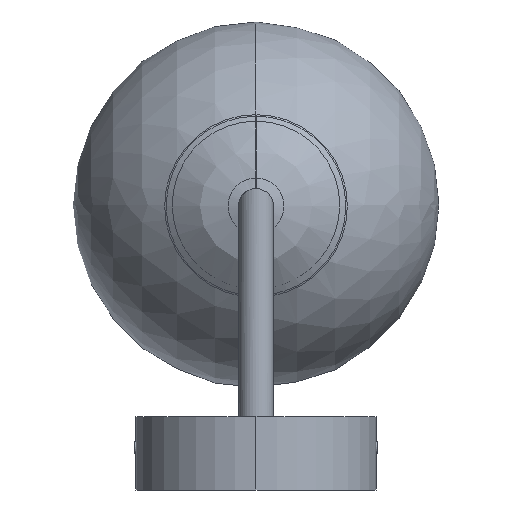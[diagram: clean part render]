
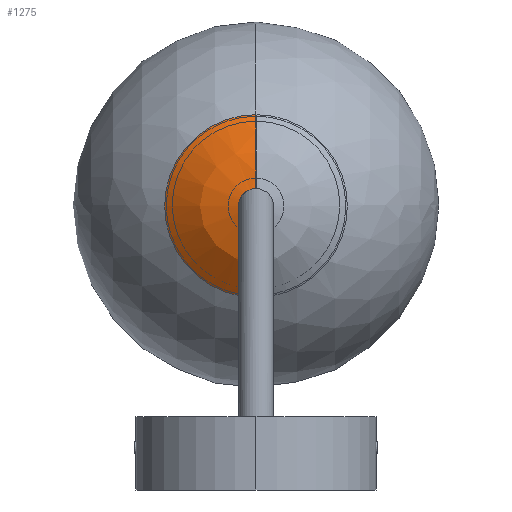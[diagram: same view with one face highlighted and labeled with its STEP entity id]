
A CAD part, front view. The second image highlights one B-rep face of the part: STEP entity #1275.
In plain terms, the highlighted free-form (B-spline) face has degree [2, 2] with [3, 5] control points.
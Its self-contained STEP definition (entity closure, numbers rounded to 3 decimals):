
#64=(
BOUNDED_CURVE()
B_SPLINE_CURVE(2,(#2968,#2969,#2970),.UNSPECIFIED.,.F.,.F.)
B_SPLINE_CURVE_WITH_KNOTS((3,3),(0.821,1.453),
 .UNSPECIFIED.)
CURVE()
GEOMETRIC_REPRESENTATION_ITEM()
RATIONAL_B_SPLINE_CURVE((1.,0.951,1.))
REPRESENTATION_ITEM('')
);
#67=(
BOUNDED_SURFACE()
B_SPLINE_SURFACE(2,2,((#2901,#2902,#2903,#2904,#2905),(#2906,#2907,#2908,
#2909,#2910),(#2911,#2912,#2913,#2914,#2915)),.UNSPECIFIED.,.F.,.F.,.F.)
B_SPLINE_SURFACE_WITH_KNOTS((3,3),(3,2,3),(-1.453,-0.821),
(-6.283,-4.712,-3.142),.UNSPECIFIED.)
GEOMETRIC_REPRESENTATION_ITEM()
RATIONAL_B_SPLINE_SURFACE(((1.,0.707,1.,0.707,1.),
(0.951,0.672,0.951,0.672,
0.951),(1.,0.707,1.,0.707,1.)))
REPRESENTATION_ITEM('')
SURFACE()
);
#109=B_SPLINE_CURVE_WITH_KNOTS('',3,(#2916,#2917,#2918,#2919,#2920,#2921,
#2922,#2923,#2924,#2925,#2926,#2927,#2928,#2929,#2930,#2931,#2932,#2933,
#2934,#2935,#2936,#2937,#2938,#2939,#2940,#2941,#2942,#2943,#2944,#2945,
#2946,#2947,#2948,#2949,#2950,#2951,#2952,#2953,#2954,#2955,#2956,#2957,
#2958,#2959,#2960,#2961,#2962,#2963,#2964,#2965,#2966,#2967),
 .UNSPECIFIED.,.F.,.F.,(4,3,3,3,3,3,3,3,3,3,3,3,3,3,3,3,3,4),(0.,0.063,
0.125,0.186,0.248,0.31,
0.371,0.433,0.495,0.558,
0.619,0.681,0.743,0.807,0.869,
0.931,0.993,1.),.UNSPECIFIED.);
#176=FACE_OUTER_BOUND('',#272,.T.);
#272=EDGE_LOOP('',(#929,#930,#931,#932));
#368=CIRCLE('',#1395,5.);
#372=CIRCLE('',#1403,29.982);
#569=VERTEX_POINT('',#2755);
#570=VERTEX_POINT('',#2756);
#575=VERTEX_POINT('',#2894);
#576=VERTEX_POINT('',#2896);
#686=EDGE_CURVE('',#569,#570,#368,.T.);
#698=EDGE_CURVE('',#576,#575,#372,.T.);
#701=EDGE_CURVE('',#569,#575,#109,.T.);
#702=EDGE_CURVE('',#576,#570,#64,.T.);
#929=ORIENTED_EDGE('',*,*,#698,.T.);
#930=ORIENTED_EDGE('',*,*,#701,.F.);
#931=ORIENTED_EDGE('',*,*,#686,.T.);
#932=ORIENTED_EDGE('',*,*,#702,.F.);
#1275=ADVANCED_FACE('',(#176),#67,.F.);
#1395=AXIS2_PLACEMENT_3D('',#2757,#1621,#1622);
#1403=AXIS2_PLACEMENT_3D('',#2897,#1641,#1642);
#1621=DIRECTION('center_axis',(0.,-1.,0.));
#1622=DIRECTION('ref_axis',(0.,0.,-1.));
#1641=DIRECTION('center_axis',(0.,1.,0.));
#1642=DIRECTION('ref_axis',(-0.588,0.,0.809));
#2755=CARTESIAN_POINT('',(0.,-136.541,88.213));
#2756=CARTESIAN_POINT('',(0.,-136.541,98.213));
#2757=CARTESIAN_POINT('Origin',(0.,-136.541,93.213));
#2894=CARTESIAN_POINT('',(0.,-148.112,63.231));
#2896=CARTESIAN_POINT('',(0.,-148.112,123.194));
#2897=CARTESIAN_POINT('Origin',(0.,-148.112,
93.213));
#2901=CARTESIAN_POINT('Ctrl Pts',(0.,-136.541,
88.213));
#2902=CARTESIAN_POINT('Ctrl Pts',(5.,-136.541,88.213));
#2903=CARTESIAN_POINT('Ctrl Pts',(5.,-136.541,93.213));
#2904=CARTESIAN_POINT('Ctrl Pts',(5.,-136.541,98.213));
#2905=CARTESIAN_POINT('Ctrl Pts',(0.,-136.541,
98.213));
#2906=CARTESIAN_POINT('Ctrl Pts',(0.,-138.245,
73.831));
#2907=CARTESIAN_POINT('Ctrl Pts',(19.381,-138.245,73.831));
#2908=CARTESIAN_POINT('Ctrl Pts',(19.381,-138.245,93.213));
#2909=CARTESIAN_POINT('Ctrl Pts',(19.381,-138.245,112.594));
#2910=CARTESIAN_POINT('Ctrl Pts',(0.,-138.245,
112.594));
#2911=CARTESIAN_POINT('Ctrl Pts',(0.,-148.112,
63.231));
#2912=CARTESIAN_POINT('Ctrl Pts',(29.982,-148.112,63.231));
#2913=CARTESIAN_POINT('Ctrl Pts',(29.982,-148.112,93.213));
#2914=CARTESIAN_POINT('Ctrl Pts',(29.982,-148.112,123.194));
#2915=CARTESIAN_POINT('Ctrl Pts',(0.,-148.112,
123.194));
#2916=CARTESIAN_POINT('Ctrl Pts',(0.,-136.541,
88.213));
#2917=CARTESIAN_POINT('Ctrl Pts',(0.,-136.608,
87.643));
#2918=CARTESIAN_POINT('Ctrl Pts',(0.,-136.687,
87.073));
#2919=CARTESIAN_POINT('Ctrl Pts',(0.,-136.777,
86.503));
#2920=CARTESIAN_POINT('Ctrl Pts',(0.,-136.867,
85.937));
#2921=CARTESIAN_POINT('Ctrl Pts',(0.,-136.967,
85.372));
#2922=CARTESIAN_POINT('Ctrl Pts',(0.,-137.079,
84.807));
#2923=CARTESIAN_POINT('Ctrl Pts',(0.,-137.191,
84.244));
#2924=CARTESIAN_POINT('Ctrl Pts',(0.,-137.314,
83.681));
#2925=CARTESIAN_POINT('Ctrl Pts',(0.,-137.448,
83.12));
#2926=CARTESIAN_POINT('Ctrl Pts',(0.,-137.582,
82.561));
#2927=CARTESIAN_POINT('Ctrl Pts',(0.,-137.727,
82.002));
#2928=CARTESIAN_POINT('Ctrl Pts',(0.,-137.883,
81.446));
#2929=CARTESIAN_POINT('Ctrl Pts',(0.,-138.039,
80.891));
#2930=CARTESIAN_POINT('Ctrl Pts',(0.,-138.206,
80.338));
#2931=CARTESIAN_POINT('Ctrl Pts',(0.,-138.384,
79.788));
#2932=CARTESIAN_POINT('Ctrl Pts',(0.,-138.562,
79.239));
#2933=CARTESIAN_POINT('Ctrl Pts',(0.,-138.75,
78.693));
#2934=CARTESIAN_POINT('Ctrl Pts',(0.,-138.95,
78.149));
#2935=CARTESIAN_POINT('Ctrl Pts',(0.,-139.149,
77.607));
#2936=CARTESIAN_POINT('Ctrl Pts',(0.,-139.359,
77.068));
#2937=CARTESIAN_POINT('Ctrl Pts',(0.,-139.58,
76.533));
#2938=CARTESIAN_POINT('Ctrl Pts',(0.,-139.8,
75.998));
#2939=CARTESIAN_POINT('Ctrl Pts',(0.,-140.031,
75.467));
#2940=CARTESIAN_POINT('Ctrl Pts',(0.,-140.272,
74.941));
#2941=CARTESIAN_POINT('Ctrl Pts',(0.,-140.52,
74.401));
#2942=CARTESIAN_POINT('Ctrl Pts',(0.,-140.779,
73.866));
#2943=CARTESIAN_POINT('Ctrl Pts',(0.,-141.049,
73.336));
#2944=CARTESIAN_POINT('Ctrl Pts',(0.,-141.311,
72.82));
#2945=CARTESIAN_POINT('Ctrl Pts',(0.,-141.584,
72.309));
#2946=CARTESIAN_POINT('Ctrl Pts',(0.,-141.866,
71.804));
#2947=CARTESIAN_POINT('Ctrl Pts',(0.,-142.148,
71.299));
#2948=CARTESIAN_POINT('Ctrl Pts',(0.,-142.441,
70.8));
#2949=CARTESIAN_POINT('Ctrl Pts',(0.,-142.742,
70.307));
#2950=CARTESIAN_POINT('Ctrl Pts',(0.,-143.044,
69.813));
#2951=CARTESIAN_POINT('Ctrl Pts',(0.,-143.355,
69.326));
#2952=CARTESIAN_POINT('Ctrl Pts',(0.,-143.675,
68.846));
#2953=CARTESIAN_POINT('Ctrl Pts',(0.,-144.009,
68.345));
#2954=CARTESIAN_POINT('Ctrl Pts',(0.,-144.353,
67.851));
#2955=CARTESIAN_POINT('Ctrl Pts',(0.,-144.705,
67.366));
#2956=CARTESIAN_POINT('Ctrl Pts',(0.,-145.045,
66.899));
#2957=CARTESIAN_POINT('Ctrl Pts',(0.,-145.393,
66.439));
#2958=CARTESIAN_POINT('Ctrl Pts',(0.,-145.75,
65.987));
#2959=CARTESIAN_POINT('Ctrl Pts',(0.,-146.107,
65.534));
#2960=CARTESIAN_POINT('Ctrl Pts',(0.,-146.472,
65.09));
#2961=CARTESIAN_POINT('Ctrl Pts',(0.,-146.844,
64.653));
#2962=CARTESIAN_POINT('Ctrl Pts',(0.,-147.218,
64.215));
#2963=CARTESIAN_POINT('Ctrl Pts',(0.,-147.599,
63.786));
#2964=CARTESIAN_POINT('Ctrl Pts',(0.,-147.987,
63.365));
#2965=CARTESIAN_POINT('Ctrl Pts',(0.,-148.029,
63.32));
#2966=CARTESIAN_POINT('Ctrl Pts',(0.,-148.07,
63.276));
#2967=CARTESIAN_POINT('Ctrl Pts',(0.,-148.112,
63.231));
#2968=CARTESIAN_POINT('Ctrl Pts',(0.,-148.112,
123.194));
#2969=CARTESIAN_POINT('Ctrl Pts',(0.,-138.245,
112.594));
#2970=CARTESIAN_POINT('Ctrl Pts',(0.,-136.541,
98.213));
